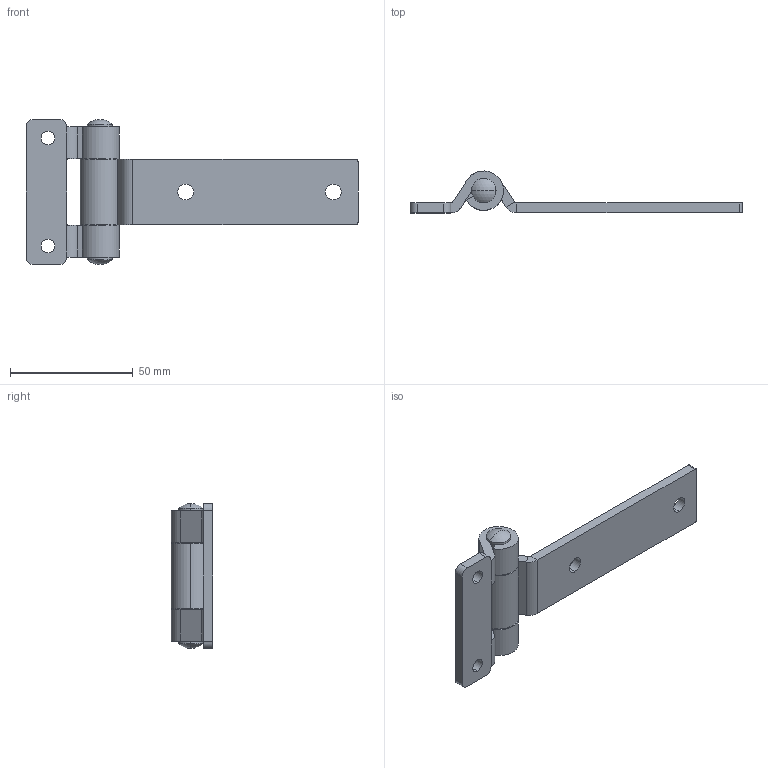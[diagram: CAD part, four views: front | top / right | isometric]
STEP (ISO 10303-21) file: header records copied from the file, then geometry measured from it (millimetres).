
FILE_DESCRIPTION (( 'STEP AP214' ), '1' );
FILE_NAME ('CL127-1.STEP', '2023-06-28T08:15:17', ( 'Windows 蚚誧' ), ( '' ), 'SwSTEP 2.0', 'SolidWorks 2019', '' );
FILE_SCHEMA (( 'AUTOMOTIVE_DESIGN' ));
Length unit declared in the file: millimetre
Products named in the file (1): CL127-1
Bounding box: 135 x 17 x 59 mm (x, y, z)
Volume: 25527.5 mm3; surface area: 15807.2 mm2
Topology: 3 solids, 3 shells, 72 faces, 170 edges, 106 vertices
Faces by surface type: cylinder 36, plane 32, sphere 4
Entity records: 2948 total; most frequent: DIRECTION 384, CARTESIAN_POINT 375, ORIENTED_EDGE 340, EDGE_CURVE 170, AXIS2_PLACEMENT_3D 145, VERTEX_POINT 106, LINE 94, VECTOR 94
